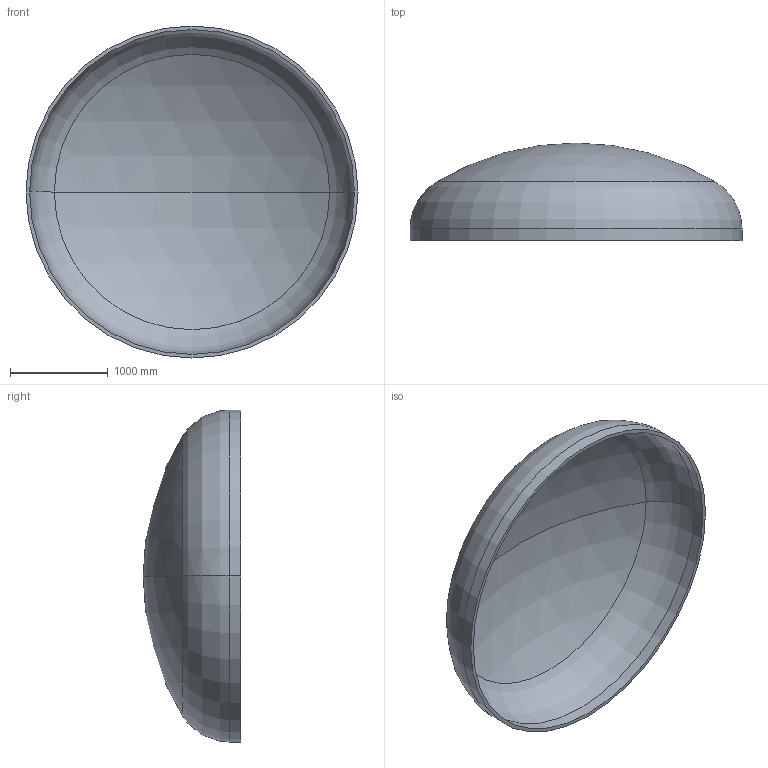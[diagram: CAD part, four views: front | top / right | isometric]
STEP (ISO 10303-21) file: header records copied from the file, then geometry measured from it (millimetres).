
FILE_DESCRIPTION (( 'STEP AP203' ), '1' );
FILE_NAME ('DIN 28013 Korbbogenform_-_Boden DIN 28013 - 3400 x 120 - I - s=37.step', '2016-07-01T19:27:11', ( '' ), ( '' ), 'SwSTEP 2.0', 'SolidWorks 2013', '' );
FILE_SCHEMA (( 'CONFIG_CONTROL_DESIGN' ));
Length unit declared in the file: millimetre
Products named in the file (1): DIN 28013 Korbbogenform_-_Boden DIN 28013 - 3400 x 120 - I - s=37
Bounding box: 3400 x 1000.04 x 3400 mm (x, y, z)
Volume: 505761384.4 mm3; surface area: 27732222.1 mm2
Topology: 1 solids, 1 shells, 13 faces, 24 edges, 14 vertices
Faces by surface type: torus 4, cylinder 4, sphere 4, plane 1
Entity records: 407 total; most frequent: DIRECTION 72, CARTESIAN_POINT 52, ORIENTED_EDGE 48, AXIS2_PLACEMENT_3D 34, EDGE_CURVE 24, CIRCLE 20, VERTEX_POINT 14, EDGE_LOOP 14
